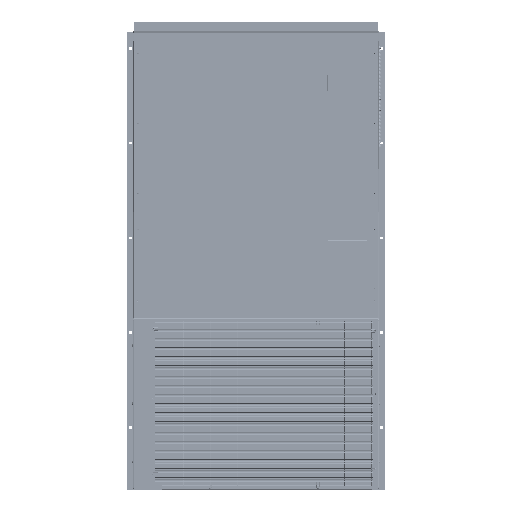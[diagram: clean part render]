
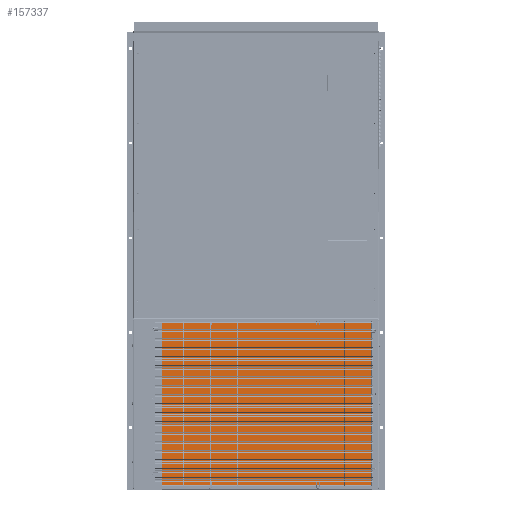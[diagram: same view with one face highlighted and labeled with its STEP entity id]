
A CAD part, top view. The second image highlights one B-rep face of the part: STEP entity #157337.
In plain terms, the highlighted planar face has unit normal (0, 0, 1) as drawn and (0, 0, -1) by its records, which use the part's own axes.
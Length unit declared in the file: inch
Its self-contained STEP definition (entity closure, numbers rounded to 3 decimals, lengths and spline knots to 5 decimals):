
#2496 = FACE_OUTER_BOUND ( 'NONE', #200219, .T. ) ;
#2938 = AXIS2_PLACEMENT_3D ( 'NONE', #213035, #84576, #234721 ) ;
#24972 = CARTESIAN_POINT ( 'NONE',  ( 28., 0., -2.598 ) ) ;
#29161 = LINE ( 'NONE', #136248, #136484 ) ;
#29373 = DIRECTION ( 'NONE',  ( 1., 0., 0. ) ) ;
#43840 = VECTOR ( 'NONE', #193860, 39.37008 ) ;
#55309 = VECTOR ( 'NONE', #152441, 39.37008 ) ;
#57680 = VERTEX_POINT ( 'NONE', #238144 ) ;
#83644 = PLANE ( 'NONE',  #2938 ) ;
#84576 = DIRECTION ( 'NONE',  ( 0., 0., 1. ) ) ;
#88263 = CARTESIAN_POINT ( 'NONE',  ( 0., -36., -2.598 ) ) ;
#100856 = LINE ( 'NONE', #213612, #43840 ) ;
#101907 = CARTESIAN_POINT ( 'NONE',  ( 28., 0., -2.598 ) ) ;
#114248 = ORIENTED_EDGE ( 'NONE', *, *, #175397, .F. ) ;
#115648 = VECTOR ( 'NONE', #129537, 39.37008 ) ;
#129537 = DIRECTION ( 'NONE',  ( -1., 0., 0. ) ) ;
#136248 = CARTESIAN_POINT ( 'NONE',  ( 0., -36., -2.598 ) ) ;
#136484 = VECTOR ( 'NONE', #29373, 39.37008 ) ;
#143153 = EDGE_CURVE ( 'NONE', #196867, #57680, #236684, .T. ) ;
#148680 = ORIENTED_EDGE ( 'NONE', *, *, #143153, .F. ) ;
#152441 = DIRECTION ( 'NONE',  ( 0., 1., 0. ) ) ;
#157337 = ADVANCED_FACE ( 'NONE', ( #2496 ), #83644, .F. ) ;
#163575 = CARTESIAN_POINT ( 'NONE',  ( 28., -36., -2.598 ) ) ;
#175397 = EDGE_CURVE ( 'NONE', #231990, #187940, #29161, .T. ) ;
#178141 = ORIENTED_EDGE ( 'NONE', *, *, #273492, .F. ) ;
#187940 = VERTEX_POINT ( 'NONE', #163575 ) ;
#189487 = CARTESIAN_POINT ( 'NONE',  ( 0., 0., -2.598 ) ) ;
#193860 = DIRECTION ( 'NONE',  ( 0., -1., 0. ) ) ;
#196867 = VERTEX_POINT ( 'NONE', #101907 ) ;
#200219 = EDGE_LOOP ( 'NONE', ( #148680, #224441, #114248, #178141 ) ) ;
#206977 = EDGE_CURVE ( 'NONE', #187940, #196867, #219863, .T. ) ;
#213035 = CARTESIAN_POINT ( 'NONE',  ( 28., -18., -2.598 ) ) ;
#213612 = CARTESIAN_POINT ( 'NONE',  ( 0., 0., -2.598 ) ) ;
#219863 = LINE ( 'NONE', #24972, #55309 ) ;
#224441 = ORIENTED_EDGE ( 'NONE', *, *, #206977, .F. ) ;
#231990 = VERTEX_POINT ( 'NONE', #88263 ) ;
#234721 = DIRECTION ( 'NONE',  ( 1., 0., 0. ) ) ;
#236684 = LINE ( 'NONE', #189487, #115648 ) ;
#238144 = CARTESIAN_POINT ( 'NONE',  ( 0., 0., -2.598 ) ) ;
#273492 = EDGE_CURVE ( 'NONE', #57680, #231990, #100856, .T. ) ;
